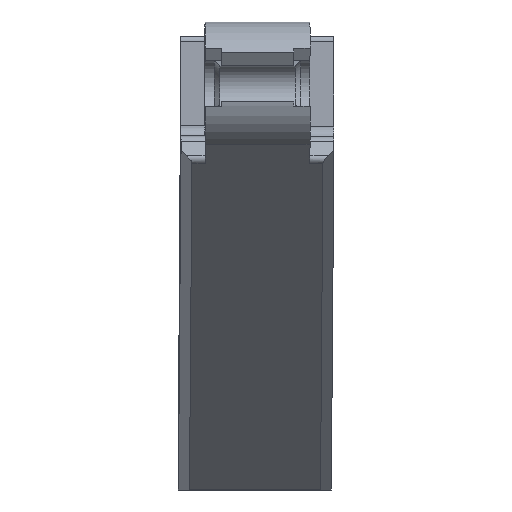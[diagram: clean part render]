
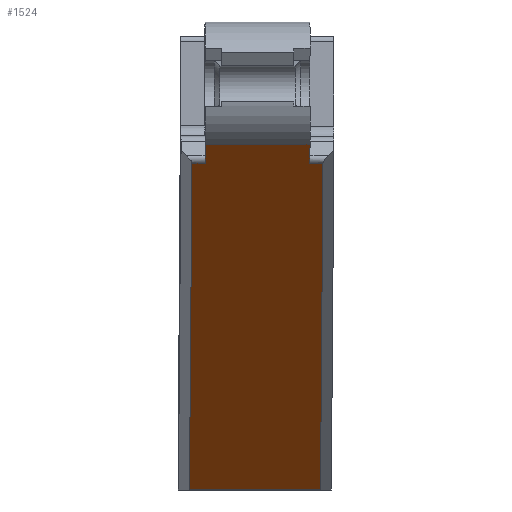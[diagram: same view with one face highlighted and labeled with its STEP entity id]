
A CAD part, left-side view. The second image highlights one B-rep face of the part: STEP entity #1524.
In plain terms, the highlighted planar face has unit normal (-0.491, -0.002, -0.871).
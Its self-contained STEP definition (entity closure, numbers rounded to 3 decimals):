
#50=PLANE('',#1632);
#115=FACE_OUTER_BOUND('',#205,.T.);
#205=EDGE_LOOP('',(#1133,#1134,#1135,#1136,#1137,#1138,#1139,#1140));
#340=LINE('',#2276,#523);
#341=LINE('',#2279,#524);
#345=LINE('',#2289,#528);
#346=LINE('',#2291,#529);
#347=LINE('',#2293,#530);
#348=LINE('',#2295,#531);
#349=LINE('',#2297,#532);
#350=LINE('',#2298,#533);
#523=VECTOR('',#1819,10.);
#524=VECTOR('',#1822,10.);
#528=VECTOR('',#1830,10.);
#529=VECTOR('',#1831,10.);
#530=VECTOR('',#1832,10.);
#531=VECTOR('',#1833,10.);
#532=VECTOR('',#1834,10.);
#533=VECTOR('',#1835,10.);
#745=VERTEX_POINT('',#2269);
#748=VERTEX_POINT('',#2274);
#749=VERTEX_POINT('',#2278);
#753=VERTEX_POINT('',#2288);
#754=VERTEX_POINT('',#2290);
#755=VERTEX_POINT('',#2292);
#756=VERTEX_POINT('',#2294);
#757=VERTEX_POINT('',#2296);
#898=EDGE_CURVE('',#748,#745,#340,.T.);
#899=EDGE_CURVE('',#745,#749,#341,.T.);
#904=EDGE_CURVE('',#748,#753,#345,.T.);
#905=EDGE_CURVE('',#754,#753,#346,.T.);
#906=EDGE_CURVE('',#754,#755,#347,.T.);
#907=EDGE_CURVE('',#756,#755,#348,.T.);
#908=EDGE_CURVE('',#757,#756,#349,.T.);
#909=EDGE_CURVE('',#749,#757,#350,.T.);
#1133=ORIENTED_EDGE('',*,*,#898,.F.);
#1134=ORIENTED_EDGE('',*,*,#904,.T.);
#1135=ORIENTED_EDGE('',*,*,#905,.F.);
#1136=ORIENTED_EDGE('',*,*,#906,.T.);
#1137=ORIENTED_EDGE('',*,*,#907,.F.);
#1138=ORIENTED_EDGE('',*,*,#908,.F.);
#1139=ORIENTED_EDGE('',*,*,#909,.F.);
#1140=ORIENTED_EDGE('',*,*,#899,.F.);
#1524=ADVANCED_FACE('',(#115),#50,.T.);
#1632=AXIS2_PLACEMENT_3D('',#2287,#1828,#1829);
#1819=DIRECTION('',(0.004,-1.,0.));
#1822=DIRECTION('',(0.871,0.004,-0.492));
#1828=DIRECTION('center_axis',(-0.492,-0.002,
-0.871));
#1829=DIRECTION('ref_axis',(0.871,0.004,-0.492));
#1830=DIRECTION('',(-0.871,-0.004,0.492));
#1831=DIRECTION('',(0.004,-1.,0.));
#1832=DIRECTION('',(0.871,0.004,-0.492));
#1833=DIRECTION('',(0.004,-1.,0.));
#1834=DIRECTION('',(-0.871,-0.004,0.492));
#1835=DIRECTION('',(-0.004,1.,0.));
#2269=CARTESIAN_POINT('',(252.615,-5.953,-3.946));
#2274=CARTESIAN_POINT('',(252.61,-4.753,-3.946));
#2276=CARTESIAN_POINT('',(252.604,-3.453,-3.946));
#2278=CARTESIAN_POINT('',(305.524,-5.723,-33.809));
#2279=CARTESIAN_POINT('',(263.701,-5.905,-10.203));
#2287=CARTESIAN_POINT('Origin',(249.541,0.034,-2.225));
#2288=CARTESIAN_POINT('',(249.562,-4.766,-2.225));
#2289=CARTESIAN_POINT('',(249.068,-4.768,-1.946));
#2290=CARTESIAN_POINT('',(249.52,4.834,-2.225));
#2291=CARTESIAN_POINT('',(249.541,0.034,-2.225));
#2292=CARTESIAN_POINT('',(252.568,4.847,-3.946));
#2293=CARTESIAN_POINT('',(249.026,4.831,-1.946));
#2294=CARTESIAN_POINT('',(252.563,6.047,-3.946));
#2295=CARTESIAN_POINT('',(252.574,3.547,-3.946));
#2296=CARTESIAN_POINT('',(305.472,6.277,-33.809));
#2297=CARTESIAN_POINT('',(263.649,6.095,-10.203));
#2298=CARTESIAN_POINT('',(305.498,0.277,-33.809));
